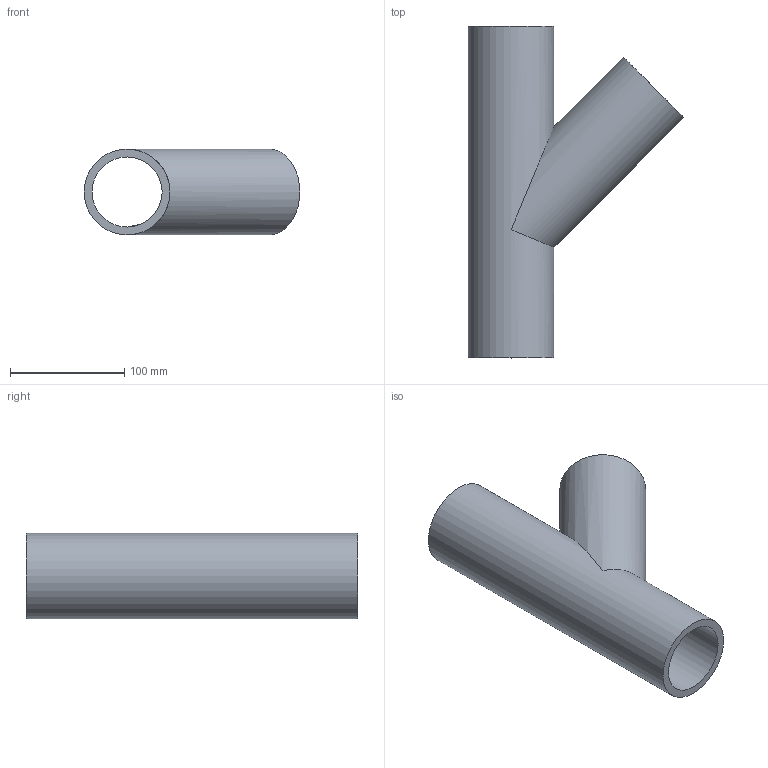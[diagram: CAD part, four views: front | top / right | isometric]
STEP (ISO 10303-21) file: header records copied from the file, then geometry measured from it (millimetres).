
FILE_DESCRIPTION(('Beschreibung'),'1');
FILE_NAME('V:/Ziel/25.25.01.103_SDR_11_PE100_075.STP', '2014-09-15T06:24:26',('Author'), ('Organization'), 'KCM Version 1.1.794.0', 'Kubotek KeyCreator', 'Authorization');
FILE_SCHEMA(('CONFIG_CONTROL_DESIGN'));
Length unit declared in the file: millimetre
Bounding box: 188.47 x 290 x 75 mm (x, y, z)
Volume: 597075.3 mm3; surface area: 177324.2 mm2
Topology: 1 solids, 1 shells, 7 faces, 28 edges, 24 vertices
Faces by surface type: cylinder 4, plane 3
Full cylindrical faces by diameter (mm): 61.2 x2, 75 x2
Entity records: 751 total; most frequent: CARTESIAN_POINT 434, DIRECTION 48, ORIENTED_EDGE 48, EDGE_CURVE 24, AXIS2_PLACEMENT_3D 22, VERTEX_POINT 20, EDGE_LOOP 12, CIRCLE 10
